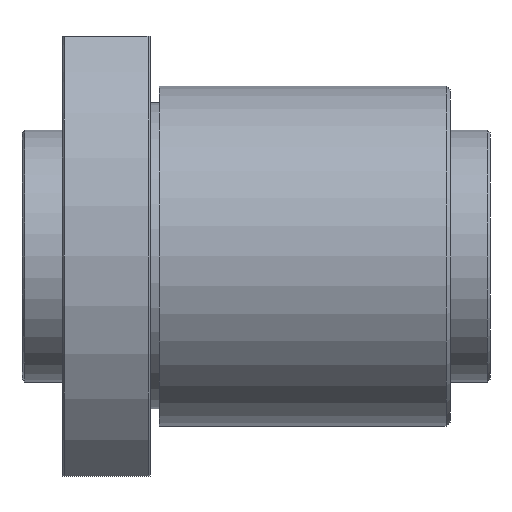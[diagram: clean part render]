
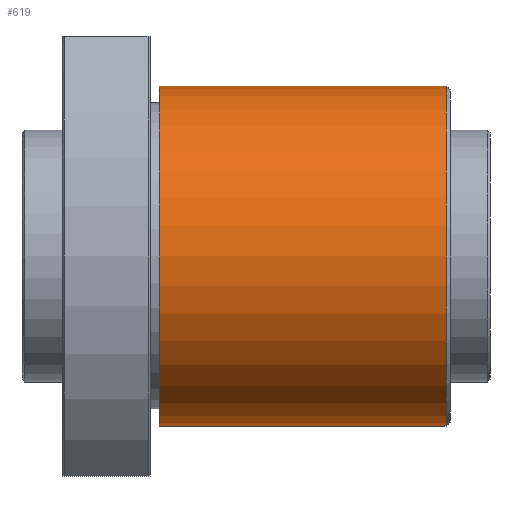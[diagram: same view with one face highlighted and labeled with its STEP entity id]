
A CAD part, front view. The second image highlights one B-rep face of the part: STEP entity #619.
In plain terms, the highlighted cylindrical face has radius 42.5 mm (diameter 85 mm), a full revolution.
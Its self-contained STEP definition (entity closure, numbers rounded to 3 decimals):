
#61=CYLINDRICAL_SURFACE('',#724,42.5);
#152=ORIENTED_EDGE('',*,*,#270,.T.);
#153=ORIENTED_EDGE('',*,*,#269,.F.);
#269=EDGE_CURVE('',#328,#328,#377,.T.);
#270=EDGE_CURVE('',#329,#329,#378,.T.);
#328=VERTEX_POINT('',#1136);
#329=VERTEX_POINT('',#1139);
#377=CIRCLE('',#723,42.5);
#378=CIRCLE('',#725,42.5);
#435=EDGE_LOOP('',(#152));
#436=EDGE_LOOP('',(#153));
#531=FACE_BOUND('',#435,.T.);
#532=FACE_BOUND('',#436,.T.);
#619=ADVANCED_FACE('',(#531,#532),#61,.T.);
#723=AXIS2_PLACEMENT_3D('',#1135,#878,#879);
#724=AXIS2_PLACEMENT_3D('',#1137,#880,#881);
#725=AXIS2_PLACEMENT_3D('',#1138,#882,#883);
#878=DIRECTION('',(1.,0.,0.));
#879=DIRECTION('',(0.,0.,-1.));
#880=DIRECTION('',(1.,0.,0.));
#881=DIRECTION('',(0.,0.,-1.));
#882=DIRECTION('',(1.,0.,0.));
#883=DIRECTION('',(0.,0.,-1.));
#1135=CARTESIAN_POINT('',(96.,0.,0.));
#1136=CARTESIAN_POINT('',(96.,0.,-42.5));
#1137=CARTESIAN_POINT('',(50.,0.,0.));
#1138=CARTESIAN_POINT('',(24.3,0.,0.));
#1139=CARTESIAN_POINT('',(24.3,0.,-42.5));
